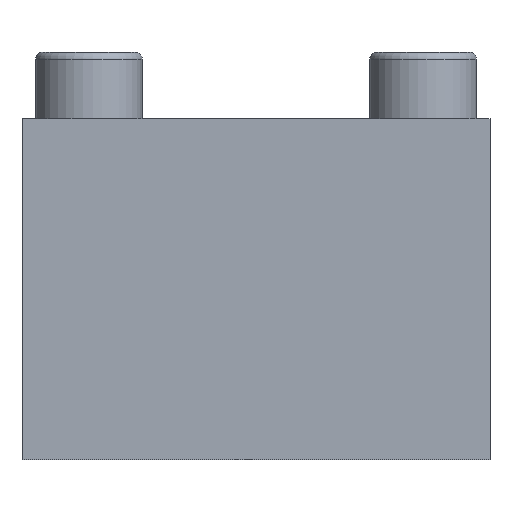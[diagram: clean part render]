
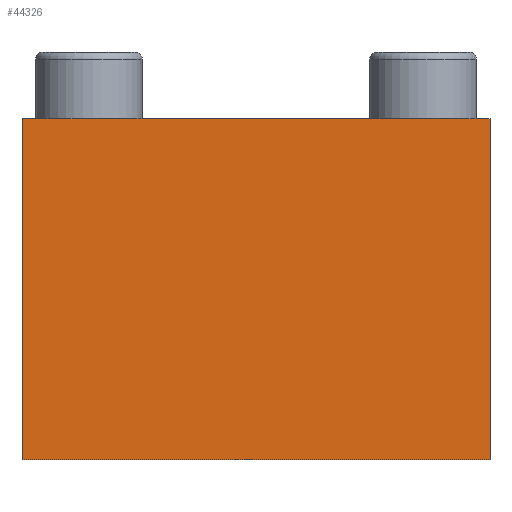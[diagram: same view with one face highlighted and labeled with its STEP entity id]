
A CAD part, front view. The second image highlights one B-rep face of the part: STEP entity #44326.
In plain terms, the highlighted planar face has unit normal (0, -1, 0).
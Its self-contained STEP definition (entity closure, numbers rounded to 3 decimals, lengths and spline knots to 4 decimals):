
#4716=FACE_OUTER_BOUND('',#7148,.T.);
#7148=EDGE_LOOP('',(#34886,#34887,#34888,#34889));
#10898=LINE('',#66320,#15816);
#10902=LINE('',#66329,#15820);
#10903=LINE('',#66330,#15821);
#10904=LINE('',#66331,#15822);
#15816=VECTOR('',#51547,5.1);
#15820=VECTOR('',#51553,5.1);
#15821=VECTOR('',#51554,7.);
#15822=VECTOR('',#51555,7.);
#20366=VERTEX_POINT('',#66318);
#20367=VERTEX_POINT('',#66319);
#20370=VERTEX_POINT('',#66327);
#20371=VERTEX_POINT('',#66328);
#25574=EDGE_CURVE('',#20366,#20367,#10898,.T.);
#25578=EDGE_CURVE('',#20370,#20371,#10902,.T.);
#25579=EDGE_CURVE('',#20366,#20370,#10903,.T.);
#25580=EDGE_CURVE('',#20371,#20367,#10904,.T.);
#34886=ORIENTED_EDGE('',*,*,#25578,.F.);
#34887=ORIENTED_EDGE('',*,*,#25579,.F.);
#34888=ORIENTED_EDGE('',*,*,#25574,.T.);
#34889=ORIENTED_EDGE('',*,*,#25580,.F.);
#42280=PLANE('',#46497);
#44326=ADVANCED_FACE('',(#4716),#42280,.T.);
#46497=AXIS2_PLACEMENT_3D('',#66326,#51551,#51552);
#51547=DIRECTION('',(0.,0.,-1.));
#51551=DIRECTION('center_axis',(0.,-1.,0.));
#51552=DIRECTION('ref_axis',(-1.,0.,0.));
#51553=DIRECTION('',(0.,0.,-1.));
#51554=DIRECTION('',(1.,0.,0.));
#51555=DIRECTION('',(-1.,0.,0.));
#66318=CARTESIAN_POINT('',(-3.5,-11.,4.1));
#66319=CARTESIAN_POINT('',(-3.5,-11.,-1.));
#66320=CARTESIAN_POINT('',(-3.5,-11.,0.));
#66326=CARTESIAN_POINT('Origin',(3.5,-11.,3.1));
#66327=CARTESIAN_POINT('',(3.5,-11.,4.1));
#66328=CARTESIAN_POINT('',(3.5,-11.,-1.));
#66329=CARTESIAN_POINT('',(3.5,-11.,0.));
#66330=CARTESIAN_POINT('',(3.5,-11.,4.1));
#66331=CARTESIAN_POINT('',(3.5,-11.,-1.));
